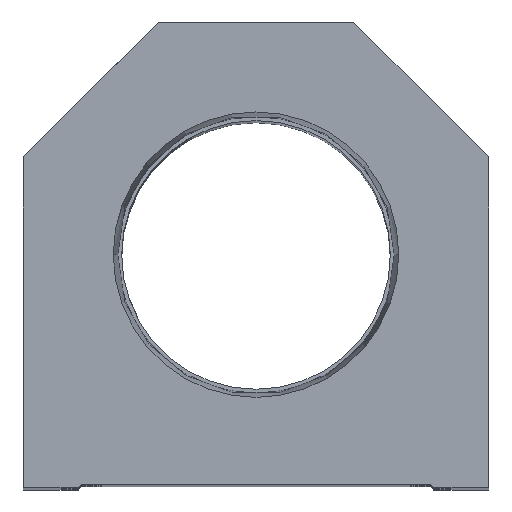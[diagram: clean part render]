
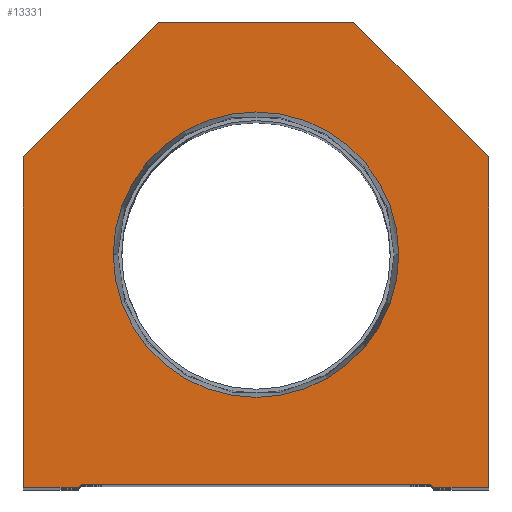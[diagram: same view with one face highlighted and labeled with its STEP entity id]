
A CAD part, top view. The second image highlights one B-rep face of the part: STEP entity #13331.
In plain terms, the highlighted planar face has unit normal (0, 0, 1).
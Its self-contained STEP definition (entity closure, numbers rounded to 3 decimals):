
#2 = ORIENTED_EDGE ( 'NONE', *, *, #15352, .T. ) ;
#132 = ORIENTED_EDGE ( 'NONE', *, *, #12934, .F. ) ;
#265 = VERTEX_POINT ( 'NONE', #1009 ) ;
#854 = VECTOR ( 'NONE', #6499, 1000. ) ;
#873 = CARTESIAN_POINT ( 'NONE',  ( 38.1, 54.1, 0. ) ) ;
#955 = CIRCLE ( 'NONE', #10910, 23.374 ) ;
#1002 = CARTESIAN_POINT ( 'NONE',  ( 0., 0., 0. ) ) ;
#1009 = CARTESIAN_POINT ( 'NONE',  ( -38.1, 0., 0. ) ) ;
#1089 = DIRECTION ( 'NONE',  ( 0., 0., 1. ) ) ;
#1178 = VECTOR ( 'NONE', #6704, 1000. ) ;
#1189 = VECTOR ( 'NONE', #7454, 1000. ) ;
#1223 = VECTOR ( 'NONE', #2180, 1000. ) ;
#1283 = CARTESIAN_POINT ( 'NONE',  ( -38.1, 54.1, 0. ) ) ;
#1552 = ORIENTED_EDGE ( 'NONE', *, *, #13447, .T. ) ;
#1700 = DIRECTION ( 'NONE',  ( 1., 0., 0. ) ) ;
#1985 = CARTESIAN_POINT ( 'NONE',  ( 0., 38.1, 0. ) ) ;
#2110 = VERTEX_POINT ( 'NONE', #10693 ) ;
#2180 = DIRECTION ( 'NONE',  ( 0.707, -0.707, 0. ) ) ;
#2235 = FACE_BOUND ( 'NONE', #17083, .T. ) ;
#2573 = LINE ( 'NONE', #12365, #8098 ) ;
#2710 = CARTESIAN_POINT ( 'NONE',  ( 38.1, 54.1, 0. ) ) ;
#3046 = VECTOR ( 'NONE', #1700, 1000. ) ;
#3131 = EDGE_CURVE ( 'NONE', #265, #2110, #15800, .T. ) ;
#3328 = CARTESIAN_POINT ( 'NONE',  ( 16., 76.2, 0. ) ) ;
#3698 = CARTESIAN_POINT ( 'NONE',  ( 14.55, 14.55, 0. ) ) ;
#3946 = CARTESIAN_POINT ( 'NONE',  ( 28.6, 0.5, 0. ) ) ;
#4041 = LINE ( 'NONE', #2710, #10851 ) ;
#4193 = ORIENTED_EDGE ( 'NONE', *, *, #8957, .T. ) ;
#4503 = VERTEX_POINT ( 'NONE', #3946 ) ;
#4586 = DIRECTION ( 'NONE',  ( -1., 0., 0. ) ) ;
#4701 = DIRECTION ( 'NONE',  ( -0.707, -0.707, 0. ) ) ;
#4748 = CARTESIAN_POINT ( 'NONE',  ( 23.374, 38.1, 0. ) ) ;
#4783 = CARTESIAN_POINT ( 'NONE',  ( -38.1, 54.1, 0. ) ) ;
#4926 = PLANE ( 'NONE',  #11984 ) ;
#5580 = CARTESIAN_POINT ( 'NONE',  ( -16., 76.2, 0. ) ) ;
#5733 = AXIS2_PLACEMENT_3D ( 'NONE', #9415, #12245, #11019 ) ;
#5972 = VERTEX_POINT ( 'NONE', #13117 ) ;
#6201 = ORIENTED_EDGE ( 'NONE', *, *, #16533, .T. ) ;
#6202 = ORIENTED_EDGE ( 'NONE', *, *, #7889, .F. ) ;
#6281 = DIRECTION ( 'NONE',  ( 1., 0., 0. ) ) ;
#6499 = DIRECTION ( 'NONE',  ( 1., 0., 0. ) ) ;
#6641 = VECTOR ( 'NONE', #4701, 1000. ) ;
#6704 = DIRECTION ( 'NONE',  ( 0., -1., 0. ) ) ;
#6877 = LINE ( 'NONE', #13445, #1178 ) ;
#7296 = ORIENTED_EDGE ( 'NONE', *, *, #13247, .T. ) ;
#7454 = DIRECTION ( 'NONE',  ( 1., 0., 0. ) ) ;
#7494 = CARTESIAN_POINT ( 'NONE',  ( 16., 76.2, 0. ) ) ;
#7547 = LINE ( 'NONE', #4783, #6641 ) ;
#7697 = DIRECTION ( 'NONE',  ( 0., 0., 1. ) ) ;
#7775 = CARTESIAN_POINT ( 'NONE',  ( 38.1, 0., 0. ) ) ;
#7796 = CARTESIAN_POINT ( 'NONE',  ( 38.1, 0., 0. ) ) ;
#7889 = EDGE_CURVE ( 'NONE', #15210, #13329, #955, .T. ) ;
#8098 = VECTOR ( 'NONE', #16527, 1000. ) ;
#8113 = VERTEX_POINT ( 'NONE', #7494 ) ;
#8203 = ORIENTED_EDGE ( 'NONE', *, *, #11977, .T. ) ;
#8339 = CARTESIAN_POINT ( 'NONE',  ( -28.6, 0.5, 0. ) ) ;
#8456 = VECTOR ( 'NONE', #15361, 1000. ) ;
#8957 = EDGE_CURVE ( 'NONE', #2110, #17196, #2573, .T. ) ;
#9415 = CARTESIAN_POINT ( 'NONE',  ( 0., 38.1, 0. ) ) ;
#9483 = CARTESIAN_POINT ( 'NONE',  ( -28.6, 0.5, 0. ) ) ;
#9707 = ORIENTED_EDGE ( 'NONE', *, *, #3131, .T. ) ;
#10490 = VERTEX_POINT ( 'NONE', #5580 ) ;
#10538 = FACE_OUTER_BOUND ( 'NONE', #14600, .T. ) ;
#10562 = ORIENTED_EDGE ( 'NONE', *, *, #15475, .T. ) ;
#10582 = ORIENTED_EDGE ( 'NONE', *, *, #13801, .T. ) ;
#10693 = CARTESIAN_POINT ( 'NONE',  ( -29.1, 0., 0. ) ) ;
#10763 = EDGE_CURVE ( 'NONE', #13392, #14744, #11308, .T. ) ;
#10819 = LINE ( 'NONE', #9483, #3046 ) ;
#10851 = VECTOR ( 'NONE', #14885, 1000. ) ;
#10910 = AXIS2_PLACEMENT_3D ( 'NONE', #1985, #7697, #6281 ) ;
#11019 = DIRECTION ( 'NONE',  ( 1., 0., 0. ) ) ;
#11308 = LINE ( 'NONE', #7796, #8456 ) ;
#11374 = LINE ( 'NONE', #16765, #1189 ) ;
#11977 = EDGE_CURVE ( 'NONE', #17196, #4503, #10819, .T. ) ;
#11984 = AXIS2_PLACEMENT_3D ( 'NONE', #1002, #1089, #13181 ) ;
#12245 = DIRECTION ( 'NONE',  ( 0., 0., 1. ) ) ;
#12365 = CARTESIAN_POINT ( 'NONE',  ( -14.55, 14.55, 0. ) ) ;
#12934 = EDGE_CURVE ( 'NONE', #13329, #15210, #15072, .T. ) ;
#13117 = CARTESIAN_POINT ( 'NONE',  ( 29.1, 0., 0. ) ) ;
#13181 = DIRECTION ( 'NONE',  ( 1., 0., 0. ) ) ;
#13225 = CARTESIAN_POINT ( 'NONE',  ( -28.6, 0., 0. ) ) ;
#13247 = EDGE_CURVE ( 'NONE', #14744, #8113, #4041, .T. ) ;
#13329 = VERTEX_POINT ( 'NONE', #4748 ) ;
#13331 = ADVANCED_FACE ( 'NONE', ( #2235, #10538 ), #4926, .T. ) ;
#13392 = VERTEX_POINT ( 'NONE', #7775 ) ;
#13445 = CARTESIAN_POINT ( 'NONE',  ( -38.1, 0., 0. ) ) ;
#13447 = EDGE_CURVE ( 'NONE', #14068, #265, #6877, .T. ) ;
#13801 = EDGE_CURVE ( 'NONE', #5972, #13392, #11374, .T. ) ;
#14068 = VERTEX_POINT ( 'NONE', #1283 ) ;
#14600 = EDGE_LOOP ( 'NONE', ( #9707, #4193, #8203, #10562, #10582, #16067, #7296, #6201, #2, #1552 ) ) ;
#14623 = VECTOR ( 'NONE', #4586, 1000. ) ;
#14735 = LINE ( 'NONE', #3698, #1223 ) ;
#14744 = VERTEX_POINT ( 'NONE', #873 ) ;
#14885 = DIRECTION ( 'NONE',  ( -0.707, 0.707, 0. ) ) ;
#15072 = CIRCLE ( 'NONE', #5733, 23.374 ) ;
#15210 = VERTEX_POINT ( 'NONE', #17390 ) ;
#15352 = EDGE_CURVE ( 'NONE', #10490, #14068, #7547, .T. ) ;
#15361 = DIRECTION ( 'NONE',  ( 0., 1., 0. ) ) ;
#15475 = EDGE_CURVE ( 'NONE', #4503, #5972, #14735, .T. ) ;
#15681 = LINE ( 'NONE', #3328, #14623 ) ;
#15800 = LINE ( 'NONE', #13225, #854 ) ;
#16067 = ORIENTED_EDGE ( 'NONE', *, *, #10763, .T. ) ;
#16527 = DIRECTION ( 'NONE',  ( 0.707, 0.707, 0. ) ) ;
#16533 = EDGE_CURVE ( 'NONE', #8113, #10490, #15681, .T. ) ;
#16765 = CARTESIAN_POINT ( 'NONE',  ( 28.6, 0., 0. ) ) ;
#17083 = EDGE_LOOP ( 'NONE', ( #132, #6202 ) ) ;
#17196 = VERTEX_POINT ( 'NONE', #8339 ) ;
#17390 = CARTESIAN_POINT ( 'NONE',  ( -23.374, 38.1, 0. ) ) ;
